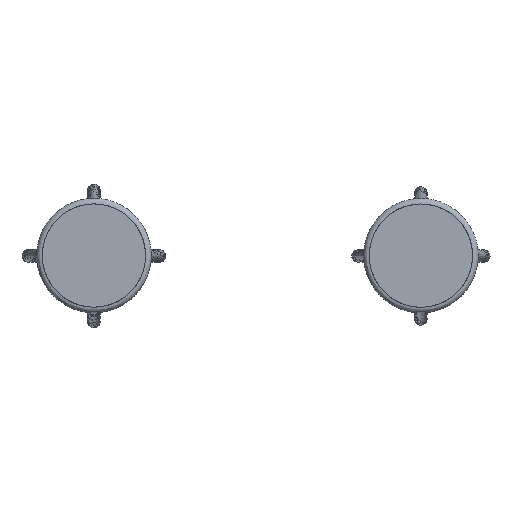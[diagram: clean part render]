
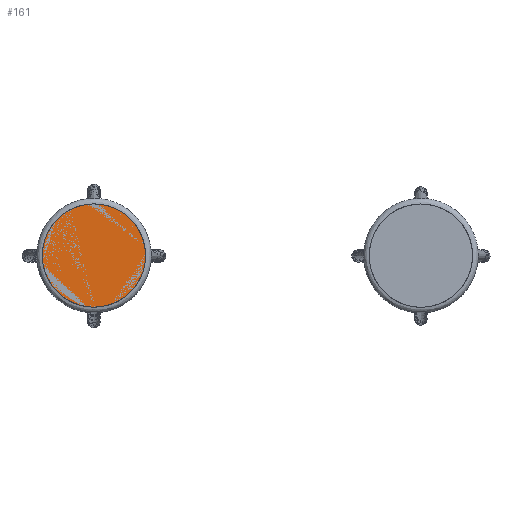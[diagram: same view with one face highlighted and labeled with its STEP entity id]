
A CAD part, top view. The second image highlights one B-rep face of the part: STEP entity #161.
In plain terms, the highlighted free-form (B-spline) face has degree [1, 1] with [2, 2] control points.
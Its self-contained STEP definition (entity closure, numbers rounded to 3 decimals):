
#97=B_SPLINE_SURFACE_WITH_KNOTS('',1,1,((#1719,#1720),(#1721,#1722)),
 .UNSPECIFIED.,.F.,.F.,.F.,(2,2),(2,2),(-3.16,319.16),
(-161.16,161.16),.UNSPECIFIED.);
#161=ADVANCED_FACE('',(#205),#97,.T.);
#205=FACE_OUTER_BOUND('',#249,.T.);
#249=EDGE_LOOP('',(#296));
#296=ORIENTED_EDGE('',*,*,#1228,.T.);
#462=PCURVE('',#97,#628);
#628=DEFINITIONAL_REPRESENTATION('',(#1381),#15037);
#1076=SURFACE_CURVE('',#1380,(#462),.PCURVE_S1.);
#1228=EDGE_CURVE('',#1413,#1413,#1076,.T.);
#1380=(
BOUNDED_CURVE()
B_SPLINE_CURVE(2,(#1724,#1725,#1726,#1727,#1728,#1729,#1730,#1731,#1732),
 .UNSPECIFIED.,.T.,.F.)
B_SPLINE_CURVE_WITH_KNOTS((3,2,2,2,3),(-1099.557,-824.668,
-549.779,-274.889,0.),.UNSPECIFIED.)
CURVE()
GEOMETRIC_REPRESENTATION_ITEM()
RATIONAL_B_SPLINE_CURVE((1.,0.707,1.,0.707,1.,0.707,
1.,0.707,1.))
REPRESENTATION_ITEM('')
);
#1381=(
BOUNDED_CURVE()
B_SPLINE_CURVE(2,(#1733,#1734,#1735,#1736,#1737,#1738,#1739,#1740,#1741),
 .UNSPECIFIED.,.T.,.F.)
B_SPLINE_CURVE_WITH_KNOTS((3,2,2,2,3),(-1099.557,-824.668,
-549.779,-274.889,0.),.UNSPECIFIED.)
CURVE()
GEOMETRIC_REPRESENTATION_ITEM()
RATIONAL_B_SPLINE_CURVE((1.,0.707,1.,0.707,1.,0.707,
1.,0.707,1.))
REPRESENTATION_ITEM('')
);
#1413=VERTEX_POINT('',#1723);
#1719=CARTESIAN_POINT('',(-163.952,380.953,775.));
#1720=CARTESIAN_POINT('',(158.368,380.953,775.));
#1721=CARTESIAN_POINT('',(-163.952,58.633,775.));
#1722=CARTESIAN_POINT('',(158.368,58.633,775.));
#1723=CARTESIAN_POINT('',(-2.792,377.793,775.));
#1724=CARTESIAN_POINT('',(-2.792,377.793,775.));
#1725=CARTESIAN_POINT('',(-160.792,377.793,775.));
#1726=CARTESIAN_POINT('',(-160.792,219.793,775.));
#1727=CARTESIAN_POINT('',(-160.792,61.793,775.));
#1728=CARTESIAN_POINT('',(-2.792,61.793,775.));
#1729=CARTESIAN_POINT('',(155.208,61.793,775.));
#1730=CARTESIAN_POINT('',(155.208,219.793,775.));
#1731=CARTESIAN_POINT('',(155.208,377.793,775.));
#1732=CARTESIAN_POINT('',(-2.792,377.793,775.));
#1733=CARTESIAN_POINT('',(0.,0.));
#1734=CARTESIAN_POINT('',(0.,-158.));
#1735=CARTESIAN_POINT('',(158.,-158.));
#1736=CARTESIAN_POINT('',(316.,-158.));
#1737=CARTESIAN_POINT('',(316.,0.));
#1738=CARTESIAN_POINT('',(316.,158.));
#1739=CARTESIAN_POINT('',(158.,158.));
#1740=CARTESIAN_POINT('',(0.,158.));
#1741=CARTESIAN_POINT('',(0.,0.));
#15037=(
GEOMETRIC_REPRESENTATION_CONTEXT(2)
PARAMETRIC_REPRESENTATION_CONTEXT()
REPRESENTATION_CONTEXT('pspace','')
);
